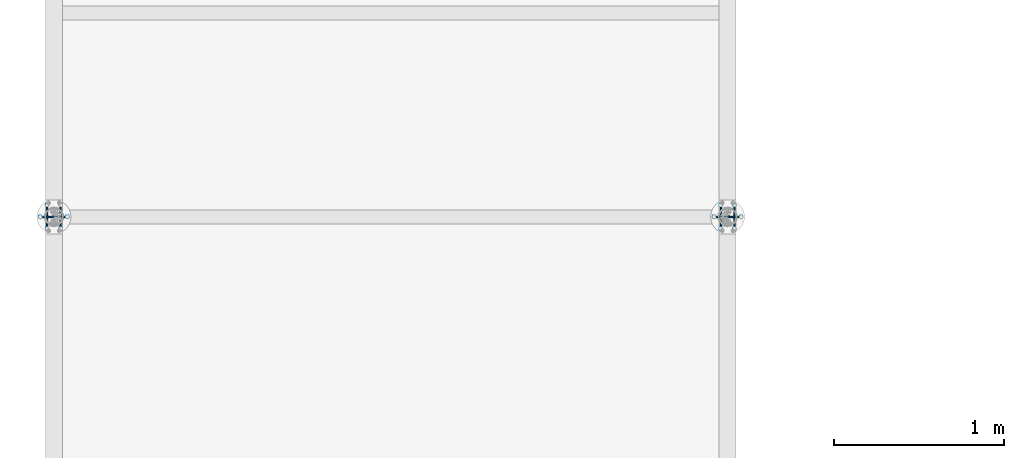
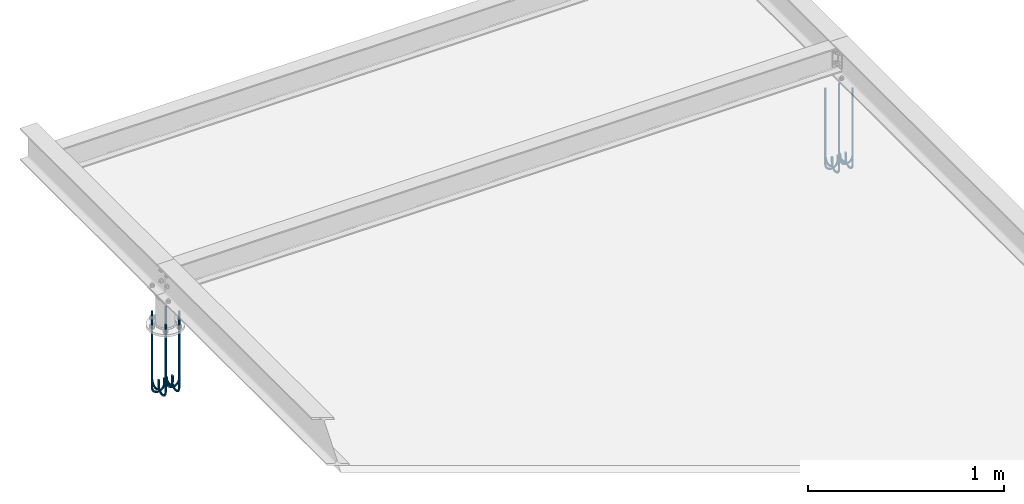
# One storey, part 15 of 84: 6 reinforcing bars.
"""IFC4 building model written with IfcOpenShell, lengths in metres."""

from ifc_helpers import new_model, entity, si_unit, frame, origin_with_axes, place, context, project, spatial, source, transform, mapped, element, save


model = new_model("IFC4")

# Units and contexts
model_context = context("Model", 3, precision=1e-05, world=origin_with_axes())
ifc_project = project(units=[si_unit("LENGTHUNIT", "METRE"), si_unit("AREAUNIT", "SQUARE_METRE"), si_unit("VOLUMEUNIT", "CUBIC_METRE"), si_unit("MASSUNIT", "GRAM", prefix="KILO"), si_unit("TIMEUNIT", "SECOND"), si_unit("PLANEANGLEUNIT", "RADIAN"), si_unit("SOLIDANGLEUNIT", "STERADIAN"), si_unit("THERMODYNAMICTEMPERATUREUNIT", "DEGREE_CELSIUS")], contexts=[model_context])

# Site, building, storey
placement_1 = place(None, origin_with_axes())
site = spatial("IfcSite", under=ifc_project, at=placement_1, Name="Italia", CompositionType="ELEMENT")
building = spatial("IfcBuilding", under=site, at=placement_1, Name="Tettoia", CompositionType="ELEMENT")
storey_placement = place(None, frame((0.0, 0.0, 4.199999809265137), z_axis=(0.0, 0.0, 1.0), x_axis=(1.0, 0.0, 0.0)))
storey = spatial("IfcBuildingStorey", under=building, at=storey_placement, Name="Storey 1", CompositionType="ELEMENT", Elevation=4.199999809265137)

# Reinforcing bars
shared_shape_1 = source(origin_with_axes(), model_context, "Body", "AdvancedSweptSolid", [
    entity("IfcSweptDiskSolid", entity("IfcIndexedPolyCurve", entity("IfcCartesianPointList3D", [[0.02, 19.82, 4.065], [0.02, 19.82, 3.642]]), [entity("IfcLineIndex", [1, 2])], False), 0.006),
])
placement_2 = place(placement_1, origin_with_axes())
reinforcing_bar_1_placement = place(placement_2, origin_with_axes())
element("IfcReinforcingBar", 1, at=reinforcing_bar_1_placement, inside=storey, BarLength=0.423, CrossSectionArea=0.0001131, NominalDiameter=0.012, context=model_context, shape_type="MappedRepresentation", body=[
    mapped(shared_shape_1, transform((0.12, -0.0692825, 0.0), x_axis=(1.0, 0.0, 0.0), y_axis=(0.0, 1.0, 0.0), z_axis=(0.0, 0.0, 1.0), scale=1.0)),
    mapped(shared_shape_1, transform((0.04, -0.0692825, 0.0), x_axis=(1.0, 0.0, 0.0), y_axis=(0.0, 1.0, 0.0), z_axis=(0.0, 0.0, 1.0), scale=1.0)),
    mapped(shared_shape_1, transform((0.0, 0.0, 0.0), x_axis=(1.0, 0.0, 0.0), y_axis=(0.0, 1.0, 0.0), z_axis=(0.0, 0.0, 1.0), scale=1.0)),
    mapped(shared_shape_1, transform((0.04, 0.0692825, 0.0), x_axis=(1.0, 0.0, 0.0), y_axis=(0.0, 1.0, 0.0), z_axis=(0.0, 0.0, 1.0), scale=1.0)),
    mapped(shared_shape_1, transform((0.12, 0.0692825, 0.0), x_axis=(1.0, 0.0, 0.0), y_axis=(0.0, 1.0, 0.0), z_axis=(0.0, 0.0, 1.0), scale=1.0)),
    mapped(shared_shape_1, transform((0.16, 0.0, 0.0), x_axis=(1.0, 0.0, 0.0), y_axis=(0.0, 1.0, 0.0), z_axis=(0.0, 0.0, 1.0), scale=1.0)),
])
shared_shape_2 = source(origin_with_axes(), model_context, "Body", "AdvancedSweptSolid", [
    entity("IfcSweptDiskSolid", entity("IfcIndexedPolyCurve", entity("IfcCartesianPointList3D", [[0.02, 19.82, 3.642], [0.0227403, 19.82, 3.62822]]), [entity("IfcLineIndex", [1, 2])], False), 0.006),
])
reinforcing_bar_2_placement = place(placement_2, origin_with_axes())
element("IfcReinforcingBar", 2, at=reinforcing_bar_2_placement, inside=storey, BarLength=0.0140464, CrossSectionArea=0.0001131, NominalDiameter=0.012, context=model_context, shape_type="MappedRepresentation", body=[
    mapped(shared_shape_2, transform((-19.68, 17.3175, 1.02724), x_axis=(0.0, -0.707073, 0.70714), y_axis=(1.0, 0.0, 0.0), z_axis=(0.0, 0.70714, 0.707073), scale=1.0)),
    mapped(shared_shape_2, transform((-19.68, 19.9091, 0.0), x_axis=(0.0, -1.0, 3.66718e-05), y_axis=(1.0, 0.0, 0.0), z_axis=(0.0, 3.66718e-05, 1.0), scale=1.0)),
    mapped(shared_shape_2, transform((-19.76, 16.5099, 2.19652), x_axis=(0.0, -0.382685, 0.923879), y_axis=(1.0, 0.0, 0.0), z_axis=(0.0, 0.923879, 0.382685), scale=1.0)),
    mapped(shared_shape_2, transform((-19.68, 18.5114, 0.255733), x_axis=(0.0, -0.923898, 0.382638), y_axis=(1.0, 0.0, 0.0), z_axis=(0.0, 0.382638, 0.923898), scale=1.0)),
    mapped(shared_shape_2, transform((-19.68, 16.5099, 2.19652), x_axis=(0.0, -0.382685, 0.923879), y_axis=(1.0, 0.0, 0.0), z_axis=(0.0, 0.923879, 0.382685), scale=1.0)),
    mapped(shared_shape_2, transform((-19.76, 18.5114, 0.255733), x_axis=(0.0, -0.923898, 0.382638), y_axis=(1.0, 0.0, 0.0), z_axis=(0.0, 0.382638, 0.923898), scale=1.0)),
    mapped(shared_shape_2, transform((-19.76, 19.9091, 0.0), x_axis=(0.0, -1.0, 3.66718e-05), y_axis=(1.0, 0.0, 0.0), z_axis=(0.0, 3.66718e-05, 1.0), scale=1.0)),
    mapped(shared_shape_2, transform((-2.39167, 39.64, 1.02711), x_axis=(-0.70711, 0.0, 0.707104), y_axis=(0.0, -1.0, 0.0), z_axis=(0.707104, 0.0, 0.70711), scale=1.0)),
    mapped(shared_shape_2, transform((-1.19802, 39.64, 0.25581), x_axis=(-0.923877, 0.0, 0.38269), y_axis=(0.0, -1.0, 0.0), z_axis=(0.38269, 0.0, 0.923877), scale=1.0)),
    mapped(shared_shape_2, transform((0.200003, 39.64, 0.0), x_axis=(-1.0, 0.0, 0.0), y_axis=(0.0, -1.0, 0.0), z_axis=(0.0, 0.0, 1.0), scale=1.0)),
    mapped(shared_shape_2, transform((-19.76, 17.3175, 1.02724), x_axis=(0.0, -0.707073, 0.70714), y_axis=(1.0, 0.0, 0.0), z_axis=(0.0, 0.70714, 0.707073), scale=1.0)),
    mapped(shared_shape_2, transform((-3.19933, 39.64, 2.19651), x_axis=(-0.382689, 0.0, 0.923877), y_axis=(0.0, -1.0, 0.0), z_axis=(0.923877, 0.0, 0.382689), scale=1.0)),
    mapped(shared_shape_2, transform((-19.68, 16.2113, 3.586), x_axis=(0.0, 0.0, 1.0), y_axis=(1.0, 0.0, 0.0), z_axis=(0.0, 1.0, 0.0), scale=1.0)),
    mapped(shared_shape_2, transform((-19.76, 16.2113, 3.586), x_axis=(0.0, 0.0, 1.0), y_axis=(1.0, 0.0, 0.0), z_axis=(0.0, 1.0, 0.0), scale=1.0)),
    mapped(shared_shape_2, transform((-3.2422, 39.64, 4.984), x_axis=(0.382685, 0.0, 0.923879), y_axis=(0.0, -1.0, 0.0), z_axis=(0.923879, 0.0, -0.382685), scale=1.0)),
    mapped(shared_shape_2, transform((-3.498, 39.64, 3.58602), x_axis=(0.0, 0.0, 1.0), y_axis=(0.0, -1.0, 0.0), z_axis=(1.0, 0.0, 0.0), scale=1.0)),
    mapped(shared_shape_2, transform((-19.68, 16.4671, 4.98409), x_axis=(0.0, 0.382708, 0.923869), y_axis=(1.0, 0.0, 0.0), z_axis=(0.0, 0.923869, -0.382708), scale=1.0)),
    mapped(shared_shape_2, transform((-19.76, 17.2385, 6.17781), x_axis=(0.0, 0.70714, 0.707073), y_axis=(1.0, 0.0, 0.0), z_axis=(0.0, 0.707073, -0.70714), scale=1.0)),
    mapped(shared_shape_2, transform((-19.76, 16.4671, 4.98409), x_axis=(0.0, 0.382708, 0.923869), y_axis=(1.0, 0.0, 0.0), z_axis=(0.0, 0.923869, -0.382708), scale=1.0)),
    mapped(shared_shape_2, transform((-2.4709, 39.64, 6.17767), x_axis=(0.707103, 0.0, 0.707111), y_axis=(0.0, -1.0, 0.0), z_axis=(0.707111, 0.0, -0.707103), scale=1.0)),
    mapped(shared_shape_2, transform((-19.68, 18.4077, 6.98529), x_axis=(0.0, 0.923866, 0.382716), y_axis=(1.0, 0.0, 0.0), z_axis=(0.0, 0.382716, -0.923866), scale=1.0)),
    mapped(shared_shape_2, transform((-19.68, 17.2385, 6.17781), x_axis=(0.0, 0.70714, 0.707073), y_axis=(1.0, 0.0, 0.0), z_axis=(0.0, 0.707073, -0.70714), scale=1.0)),
    mapped(shared_shape_2, transform((-19.76, 18.4077, 6.98529), x_axis=(0.0, 0.923866, 0.382716), y_axis=(1.0, 0.0, 0.0), z_axis=(0.0, 0.382716, -0.923866), scale=1.0)),
    mapped(shared_shape_2, transform((-1.30148, 39.64, 6.98534), x_axis=(0.923879, 0.0, 0.382685), y_axis=(0.0, -1.0, 0.0), z_axis=(0.382685, 0.0, -0.923879), scale=1.0)),
    mapped(shared_shape_2, transform((1.50148, 0.0, 6.98534), x_axis=(-0.923879, 0.0, 0.382685), y_axis=(0.0, 1.0, 0.0), z_axis=(-0.382685, 0.0, -0.923879), scale=1.0)),
    mapped(shared_shape_2, transform((2.6709, 0.0, 6.17767), x_axis=(-0.707103, 0.0, 0.707111), y_axis=(0.0, 1.0, 0.0), z_axis=(-0.707111, 0.0, -0.707103), scale=1.0)),
    mapped(shared_shape_2, transform((19.88, 19.7309, 0.0), x_axis=(0.0, 1.0, 3.66718e-05), y_axis=(-1.0, 0.0, 0.0), z_axis=(0.0, -3.66718e-05, 1.0), scale=1.0)),
    mapped(shared_shape_2, transform((3.698, 0.0, 3.58602), x_axis=(0.0, 0.0, 1.0), y_axis=(0.0, 1.0, 0.0), z_axis=(-1.0, 0.0, 0.0), scale=1.0)),
    mapped(shared_shape_2, transform((3.4422, 0.0, 4.984), x_axis=(-0.382685, 0.0, 0.923879), y_axis=(0.0, 1.0, 0.0), z_axis=(-0.923879, 0.0, -0.382685), scale=1.0)),
    mapped(shared_shape_2, transform((1.39802, 0.0, 0.255809), x_axis=(0.923877, 0.0, 0.382689), y_axis=(0.0, 1.0, 0.0), z_axis=(-0.382689, 0.0, 0.923877), scale=1.0)),
    mapped(shared_shape_2, transform((0.0, 0.0, 0.0), x_axis=(1.0, 0.0, 0.0), y_axis=(0.0, 1.0, 0.0), z_axis=(0.0, 0.0, 1.0), scale=1.0)),
    mapped(shared_shape_2, transform((19.96, 21.1285, 0.255733), x_axis=(0.0, 0.923898, 0.382638), y_axis=(-1.0, 0.0, 0.0), z_axis=(0.0, -0.382638, 0.923898), scale=1.0)),
    mapped(shared_shape_2, transform((19.88, 21.1285, 0.255733), x_axis=(0.0, 0.923898, 0.382638), y_axis=(-1.0, 0.0, 0.0), z_axis=(0.0, -0.382638, 0.923898), scale=1.0)),
    mapped(shared_shape_2, transform((2.59167, 0.0, 1.02711), x_axis=(0.70711, 0.0, 0.707104), y_axis=(0.0, 1.0, 0.0), z_axis=(-0.707104, 0.0, 0.70711), scale=1.0)),
    mapped(shared_shape_2, transform((19.96, 22.3225, 1.02724), x_axis=(0.0, 0.707073, 0.70714), y_axis=(-1.0, 0.0, 0.0), z_axis=(0.0, -0.70714, 0.707073), scale=1.0)),
    mapped(shared_shape_2, transform((19.88, 22.3225, 1.02724), x_axis=(0.0, 0.707073, 0.70714), y_axis=(-1.0, 0.0, 0.0), z_axis=(0.0, -0.70714, 0.707073), scale=1.0)),
    mapped(shared_shape_2, transform((19.96, 19.7309, 0.0), x_axis=(0.0, 1.0, 3.66718e-05), y_axis=(-1.0, 0.0, 0.0), z_axis=(0.0, -3.66718e-05, 1.0), scale=1.0)),
    mapped(shared_shape_2, transform((3.39933, 0.0, 2.19651), x_axis=(0.382689, 0.0, 0.923877), y_axis=(0.0, 1.0, 0.0), z_axis=(-0.923877, 0.0, 0.382689), scale=1.0)),
    mapped(shared_shape_2, transform((19.96, 21.2323, 6.98529), x_axis=(0.0, -0.923866, 0.382716), y_axis=(-1.0, 0.0, 0.0), z_axis=(0.0, -0.382716, -0.923866), scale=1.0)),
    mapped(shared_shape_2, transform((19.88, 23.1729, 4.98409), x_axis=(0.0, -0.382708, 0.923869), y_axis=(-1.0, 0.0, 0.0), z_axis=(0.0, -0.923869, -0.382708), scale=1.0)),
    mapped(shared_shape_2, transform((19.88, 23.4287, 3.586), x_axis=(0.0, 0.0, 1.0), y_axis=(-1.0, 0.0, 0.0), z_axis=(0.0, -1.0, 0.0), scale=1.0)),
    mapped(shared_shape_2, transform((19.88, 23.1301, 2.19652), x_axis=(0.0, 0.382685, 0.923879), y_axis=(-1.0, 0.0, 0.0), z_axis=(0.0, -0.923879, 0.382685), scale=1.0)),
    mapped(shared_shape_2, transform((19.96, 23.4287, 3.586), x_axis=(0.0, 0.0, 1.0), y_axis=(-1.0, 0.0, 0.0), z_axis=(0.0, -1.0, 0.0), scale=1.0)),
    mapped(shared_shape_2, transform((19.96, 22.4015, 6.17781), x_axis=(0.0, -0.70714, 0.707073), y_axis=(-1.0, 0.0, 0.0), z_axis=(0.0, -0.707073, -0.70714), scale=1.0)),
    mapped(shared_shape_2, transform((19.96, 23.1729, 4.98409), x_axis=(0.0, -0.382708, 0.923869), y_axis=(-1.0, 0.0, 0.0), z_axis=(0.0, -0.923869, -0.382708), scale=1.0)),
    mapped(shared_shape_2, transform((19.88, 22.4015, 6.17781), x_axis=(0.0, -0.70714, 0.707073), y_axis=(-1.0, 0.0, 0.0), z_axis=(0.0, -0.707073, -0.70714), scale=1.0)),
    mapped(shared_shape_2, transform((19.96, 23.1301, 2.19652), x_axis=(0.0, 0.382685, 0.923879), y_axis=(-1.0, 0.0, 0.0), z_axis=(0.0, -0.923879, 0.382685), scale=1.0)),
    mapped(shared_shape_2, transform((19.88, 21.2323, 6.98529), x_axis=(0.0, -0.923866, 0.382716), y_axis=(-1.0, 0.0, 0.0), z_axis=(0.0, -0.382716, -0.923866), scale=1.0)),
])
shared_shape_3 = source(origin_with_axes(), model_context, "Body", "AdvancedSweptSolid", [
    entity("IfcSweptDiskSolid", entity("IfcIndexedPolyCurve", entity("IfcCartesianPointList3D", [[0.092, 19.82, 3.642], [0.092, 19.82, 3.678]]), [entity("IfcLineIndex", [1, 2])], False), 0.006),
])
reinforcing_bar_3_placement = place(placement_2, origin_with_axes())
element("IfcReinforcingBar", 3, at=reinforcing_bar_3_placement, inside=storey, BarLength=0.0359998, CrossSectionArea=0.0001131, NominalDiameter=0.012, context=model_context, shape_type="MappedRepresentation", body=[
    mapped(shared_shape_3, transform((0.048, 0.00271797, 0.0), x_axis=(1.0, 0.0, 0.0), y_axis=(0.0, 1.0, 0.0), z_axis=(0.0, 0.0, 1.0), scale=1.0)),
    mapped(shared_shape_3, transform((-0.032, 0.00271797, 0.0), x_axis=(1.0, 0.0, 0.0), y_axis=(0.0, 1.0, 0.0), z_axis=(0.0, 0.0, 1.0), scale=1.0)),
    mapped(shared_shape_3, transform((0.0, 0.0, 0.0), x_axis=(1.0, 0.0, 0.0), y_axis=(0.0, 1.0, 0.0), z_axis=(0.0, 0.0, 1.0), scale=1.0)),
    mapped(shared_shape_3, transform((-0.032, -0.00271797, 0.0), x_axis=(1.0, 0.0, 0.0), y_axis=(0.0, 1.0, 0.0), z_axis=(0.0, 0.0, 1.0), scale=1.0)),
    mapped(shared_shape_3, transform((0.048, -0.00271797, 0.0), x_axis=(1.0, 0.0, 0.0), y_axis=(0.0, 1.0, 0.0), z_axis=(0.0, 0.0, 1.0), scale=1.0)),
    mapped(shared_shape_3, transform((0.016, 0.0, 0.0), x_axis=(1.0, 0.0, 0.0), y_axis=(0.0, 1.0, 0.0), z_axis=(0.0, 0.0, 1.0), scale=1.0)),
])
shared_shape_4 = source(origin_with_axes(), model_context, "Body", "AdvancedSweptSolid", [
    entity("IfcSweptDiskSolid", entity("IfcIndexedPolyCurve", entity("IfcCartesianPointList3D", [[3.99, 19.82, 4.065], [3.99, 19.82, 3.642]]), [entity("IfcLineIndex", [1, 2])], False), 0.006),
])
reinforcing_bar_4_placement = place(placement_2, origin_with_axes())
element("IfcReinforcingBar", 4, at=reinforcing_bar_4_placement, inside=storey, BarLength=0.423, CrossSectionArea=0.0001131, NominalDiameter=0.012, context=model_context, shape_type="MappedRepresentation", body=[
    mapped(shared_shape_4, transform((0.12, -0.0692806, 0.0), x_axis=(1.0, 0.0, 0.0), y_axis=(0.0, 1.0, 0.0), z_axis=(0.0, 0.0, 1.0), scale=1.0)),
    mapped(shared_shape_4, transform((0.0400002, -0.0692806, 0.0), x_axis=(1.0, 0.0, 0.0), y_axis=(0.0, 1.0, 0.0), z_axis=(0.0, 0.0, 1.0), scale=1.0)),
    mapped(shared_shape_4, transform((0.0, 0.0, 0.0), x_axis=(1.0, 0.0, 0.0), y_axis=(0.0, 1.0, 0.0), z_axis=(0.0, 0.0, 1.0), scale=1.0)),
    mapped(shared_shape_4, transform((0.0400002, 0.0692844, 0.0), x_axis=(1.0, 0.0, 0.0), y_axis=(0.0, 1.0, 0.0), z_axis=(0.0, 0.0, 1.0), scale=1.0)),
    mapped(shared_shape_4, transform((0.12, 0.0692844, 0.0), x_axis=(1.0, 0.0, 0.0), y_axis=(0.0, 1.0, 0.0), z_axis=(0.0, 0.0, 1.0), scale=1.0)),
    mapped(shared_shape_4, transform((0.16, 0.0, 0.0), x_axis=(1.0, 0.0, 0.0), y_axis=(0.0, 1.0, 0.0), z_axis=(0.0, 0.0, 1.0), scale=1.0)),
])
shared_shape_5 = source(origin_with_axes(), model_context, "Body", "AdvancedSweptSolid", [
    entity("IfcSweptDiskSolid", entity("IfcIndexedPolyCurve", entity("IfcCartesianPointList3D", [[3.99, 19.82, 3.642], [3.99274, 19.82, 3.62822]]), [entity("IfcLineIndex", [1, 2])], False), 0.006),
])
reinforcing_bar_5_placement = place(placement_2, origin_with_axes())
element("IfcReinforcingBar", 5, at=reinforcing_bar_5_placement, inside=storey, BarLength=0.0140465, CrossSectionArea=0.0001131, NominalDiameter=0.012, context=model_context, shape_type="MappedRepresentation", body=[
    mapped(shared_shape_5, transform((-15.71, 18.0292, -1.47128), x_axis=(0.0, -0.382688, 0.923878), y_axis=(1.0, 0.0, 0.0), z_axis=(0.0, 0.923878, 0.382688), scale=1.0)),
    mapped(shared_shape_5, transform((-15.79, 18.0292, -1.47128), x_axis=(0.0, -0.382688, 0.923878), y_axis=(1.0, 0.0, 0.0), z_axis=(0.0, 0.923878, 0.382688), scale=1.0)),
    mapped(shared_shape_5, transform((-15.79, 16.2113, -0.384012), x_axis=(0.0, 0.0, 1.0), y_axis=(1.0, 0.0, 0.0), z_axis=(0.0, 1.0, 0.0), scale=1.0)),
    mapped(shared_shape_5, transform((-15.71, 20.1246, -1.78011), x_axis=(0.0, -0.707076, 0.707138), y_axis=(1.0, 0.0, 0.0), z_axis=(0.0, 0.707138, 0.707076), scale=1.0)),
    mapped(shared_shape_5, transform((-15.79, 20.1246, -1.78011), x_axis=(0.0, -0.707076, 0.707138), y_axis=(1.0, 0.0, 0.0), z_axis=(0.0, 0.707138, 0.707076), scale=1.0)),
    mapped(shared_shape_5, transform((4.3857, 39.64, -1.78009), x_axis=(-0.707129, 0.0, 0.707085), y_axis=(0.0, -1.0, 0.0), z_axis=(0.707085, 0.0, 0.707129), scale=1.0)),
    mapped(shared_shape_5, transform((2.28994, 39.64, -1.47128), x_axis=(-0.382688, 0.0, 0.923878), y_axis=(0.0, -1.0, 0.0), z_axis=(0.923878, 0.0, 0.382688), scale=1.0)),
    mapped(shared_shape_5, transform((-15.71, 22.1793, -1.26333), x_axis=(0.0, -0.923899, 0.382635), y_axis=(1.0, 0.0, 0.0), z_axis=(0.0, 0.382635, 0.923899), scale=1.0)),
    mapped(shared_shape_5, transform((-15.79, 22.1793, -1.26333), x_axis=(0.0, -0.923899, 0.382635), y_axis=(1.0, 0.0, 0.0), z_axis=(0.0, 0.382635, 0.923899), scale=1.0)),
    mapped(shared_shape_5, transform((0.472014, 39.64, -0.384012), x_axis=(0.0, 0.0, 1.0), y_axis=(0.0, -1.0, 0.0), z_axis=(1.0, 0.0, 0.0), scale=1.0)),
    mapped(shared_shape_5, transform((-15.71, 23.8792, -0.000132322), x_axis=(0.0, -1.0, 3.32743e-05), y_axis=(1.0, 0.0, 0.0), z_axis=(0.0, 3.32743e-05, 1.0), scale=1.0)),
    mapped(shared_shape_5, transform((-15.71, 14.9478, 1.31631), x_axis=(0.0, 0.382705, 0.923871), y_axis=(1.0, 0.0, 0.0), z_axis=(0.0, 0.923871, -0.382705), scale=1.0)),
    mapped(shared_shape_5, transform((-15.71, 16.2113, -0.384012), x_axis=(0.0, 0.0, 1.0), y_axis=(1.0, 0.0, 0.0), z_axis=(0.0, 1.0, 0.0), scale=1.0)),
    mapped(shared_shape_5, transform((-15.71, 14.4312, 3.37071), x_axis=(0.0, 0.707138, 0.707076), y_axis=(1.0, 0.0, 0.0), z_axis=(0.0, 0.707076, -0.707138), scale=1.0)),
    mapped(shared_shape_5, transform((-15.79, 23.8792, -0.000132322), x_axis=(0.0, -1.0, 3.32743e-05), y_axis=(1.0, 0.0, 0.0), z_axis=(0.0, 3.32743e-05, 1.0), scale=1.0)),
    mapped(shared_shape_5, transform((-0.791462, 39.64, 1.31622), x_axis=(0.382687, 0.0, 0.923878), y_axis=(0.0, -1.0, 0.0), z_axis=(0.923878, 0.0, -0.382687), scale=1.0)),
    mapped(shared_shape_5, transform((-15.79, 14.7399, 5.46589), x_axis=(0.0, 0.923865, 0.382719), y_axis=(1.0, 0.0, 0.0), z_axis=(0.0, 0.382719, -0.923865), scale=1.0)),
    mapped(shared_shape_5, transform((-15.79, 14.4312, 3.37071), x_axis=(0.0, 0.707138, 0.707076), y_axis=(1.0, 0.0, 0.0), z_axis=(0.0, 0.707076, -0.707138), scale=1.0)),
    mapped(shared_shape_5, transform((-15.71, 14.7399, 5.46589), x_axis=(0.0, 0.923865, 0.382719), y_axis=(1.0, 0.0, 0.0), z_axis=(0.0, 0.382719, -0.923865), scale=1.0)),
    mapped(shared_shape_5, transform((-15.79, 14.9478, 1.31631), x_axis=(0.0, 0.382705, 0.923871), y_axis=(1.0, 0.0, 0.0), z_axis=(0.0, 0.923871, -0.382705), scale=1.0)),
    mapped(shared_shape_5, transform((-1.30809, 39.64, 3.3704), x_axis=(0.707098, 0.0, 0.707116), y_axis=(0.0, -1.0, 0.0), z_axis=(0.707116, 0.0, -0.707098), scale=1.0)),
    mapped(shared_shape_5, transform((-0.99928, 39.64, 5.46606), x_axis=(0.923878, 0.0, 0.382688), y_axis=(0.0, -1.0, 0.0), z_axis=(0.382688, 0.0, -0.923878), scale=1.0)),
    mapped(shared_shape_5, transform((9.13928, 0.0, 5.46606), x_axis=(-0.923878, 0.0, 0.382688), y_axis=(0.0, 1.0, 0.0), z_axis=(-0.382688, 0.0, -0.923878), scale=1.0)),
    mapped(shared_shape_5, transform((9.44809, 0.0, 3.3704), x_axis=(-0.707098, 0.0, 0.707116), y_axis=(0.0, 1.0, 0.0), z_axis=(-0.707116, 0.0, -0.707098), scale=1.0)),
    mapped(shared_shape_5, transform((23.85, 19.5154, -1.78011), x_axis=(0.0, 0.707076, 0.707138), y_axis=(-1.0, 0.0, 0.0), z_axis=(0.0, -0.707138, 0.707076), scale=1.0)),
    mapped(shared_shape_5, transform((5.85006, 0.0, -1.47128), x_axis=(0.382688, 0.0, 0.923878), y_axis=(0.0, 1.0, 0.0), z_axis=(-0.923878, 0.0, 0.382688), scale=1.0)),
    mapped(shared_shape_5, transform((3.7543, 0.0, -1.78009), x_axis=(0.707129, 0.0, 0.707085), y_axis=(0.0, 1.0, 0.0), z_axis=(-0.707085, 0.0, 0.707129), scale=1.0)),
    mapped(shared_shape_5, transform((6.43979, 39.64, -1.26346), x_axis=(-0.923878, 0.0, 0.382687), y_axis=(0.0, -1.0, 0.0), z_axis=(0.382687, 0.0, 0.923878), scale=1.0)),
    mapped(shared_shape_5, transform((23.93, 21.6108, -1.47128), x_axis=(0.0, 0.382688, 0.923878), y_axis=(-1.0, 0.0, 0.0), z_axis=(0.0, -0.923878, 0.382688), scale=1.0)),
    mapped(shared_shape_5, transform((23.85, 21.6108, -1.47128), x_axis=(0.0, 0.382688, 0.923878), y_axis=(-1.0, 0.0, 0.0), z_axis=(0.0, -0.923878, 0.382688), scale=1.0)),
    mapped(shared_shape_5, transform((7.66799, 0.0, -0.384012), x_axis=(0.0, 0.0, 1.0), y_axis=(0.0, 1.0, 0.0), z_axis=(-1.0, 0.0, 0.0), scale=1.0)),
    mapped(shared_shape_5, transform((0.0, 0.0, 0.0), x_axis=(1.0, 0.0, 0.0), y_axis=(0.0, 1.0, 0.0), z_axis=(0.0, 0.0, 1.0), scale=1.0)),
    mapped(shared_shape_5, transform((8.93146, 0.0, 1.31622), x_axis=(-0.382687, 0.0, 0.923878), y_axis=(0.0, 1.0, 0.0), z_axis=(-0.923878, 0.0, -0.382687), scale=1.0)),
    mapped(shared_shape_5, transform((1.70022, 0.0, -1.26346), x_axis=(0.923878, 0.0, 0.382687), y_axis=(0.0, 1.0, 0.0), z_axis=(-0.382687, 0.0, 0.923878), scale=1.0)),
    mapped(shared_shape_5, transform((23.85, 25.2088, 3.37071), x_axis=(0.0, -0.707138, 0.707076), y_axis=(-1.0, 0.0, 0.0), z_axis=(0.0, -0.707076, -0.707138), scale=1.0)),
    mapped(shared_shape_5, transform((8.14, 39.64, 0.0), x_axis=(-1.0, 0.0, 0.0), y_axis=(0.0, -1.0, 0.0), z_axis=(0.0, 0.0, 1.0), scale=1.0)),
    mapped(shared_shape_5, transform((23.85, 24.9001, 5.46589), x_axis=(0.0, -0.923865, 0.382719), y_axis=(-1.0, 0.0, 0.0), z_axis=(0.0, -0.382719, -0.923865), scale=1.0)),
    mapped(shared_shape_5, transform((23.85, 24.6922, 1.31631), x_axis=(0.0, -0.382705, 0.923871), y_axis=(-1.0, 0.0, 0.0), z_axis=(0.0, -0.923871, -0.382705), scale=1.0)),
    mapped(shared_shape_5, transform((23.85, 23.4287, -0.384012), x_axis=(0.0, 0.0, 1.0), y_axis=(-1.0, 0.0, 0.0), z_axis=(0.0, -1.0, 0.0), scale=1.0)),
    mapped(shared_shape_5, transform((23.85, 15.7608, -0.000132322), x_axis=(0.0, 1.0, 3.32743e-05), y_axis=(-1.0, 0.0, 0.0), z_axis=(0.0, -3.32743e-05, 1.0), scale=1.0)),
    mapped(shared_shape_5, transform((23.85, 17.4607, -1.26333), x_axis=(0.0, 0.923899, 0.382635), y_axis=(-1.0, 0.0, 0.0), z_axis=(0.0, -0.382635, 0.923899), scale=1.0)),
    mapped(shared_shape_5, transform((23.93, 24.9001, 5.46589), x_axis=(0.0, -0.923865, 0.382719), y_axis=(-1.0, 0.0, 0.0), z_axis=(0.0, -0.382719, -0.923865), scale=1.0)),
    mapped(shared_shape_5, transform((23.93, 25.2088, 3.37071), x_axis=(0.0, -0.707138, 0.707076), y_axis=(-1.0, 0.0, 0.0), z_axis=(0.0, -0.707076, -0.707138), scale=1.0)),
    mapped(shared_shape_5, transform((23.93, 23.4287, -0.384012), x_axis=(0.0, 0.0, 1.0), y_axis=(-1.0, 0.0, 0.0), z_axis=(0.0, -1.0, 0.0), scale=1.0)),
    mapped(shared_shape_5, transform((23.93, 24.6922, 1.31631), x_axis=(0.0, -0.382705, 0.923871), y_axis=(-1.0, 0.0, 0.0), z_axis=(0.0, -0.923871, -0.382705), scale=1.0)),
    mapped(shared_shape_5, transform((23.93, 17.4607, -1.26333), x_axis=(0.0, 0.923899, 0.382635), y_axis=(-1.0, 0.0, 0.0), z_axis=(0.0, -0.382635, 0.923899), scale=1.0)),
    mapped(shared_shape_5, transform((23.93, 15.7608, -0.000132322), x_axis=(0.0, 1.0, 3.32743e-05), y_axis=(-1.0, 0.0, 0.0), z_axis=(0.0, -3.32743e-05, 1.0), scale=1.0)),
    mapped(shared_shape_5, transform((23.93, 19.5154, -1.78011), x_axis=(0.0, 0.707076, 0.707138), y_axis=(-1.0, 0.0, 0.0), z_axis=(0.0, -0.707138, 0.707076), scale=1.0)),
])
shared_shape_6 = source(origin_with_axes(), model_context, "Body", "AdvancedSweptSolid", [
    entity("IfcSweptDiskSolid", entity("IfcIndexedPolyCurve", entity("IfcCartesianPointList3D", [[4.062, 19.82, 3.642], [4.062, 19.82, 3.678]]), [entity("IfcLineIndex", [1, 2])], False), 0.006),
])
reinforcing_bar_6_placement = place(placement_2, origin_with_axes())
element("IfcReinforcingBar", 6, at=reinforcing_bar_6_placement, inside=storey, BarLength=0.0359998, CrossSectionArea=0.0001131, NominalDiameter=0.012, context=model_context, shape_type="MappedRepresentation", body=[
    mapped(shared_shape_6, transform((0.0479999, 0.00271797, 0.0), x_axis=(1.0, 0.0, 0.0), y_axis=(0.0, 1.0, 0.0), z_axis=(0.0, 0.0, 1.0), scale=1.0)),
    mapped(shared_shape_6, transform((-0.0320001, 0.00271797, 0.0), x_axis=(1.0, 0.0, 0.0), y_axis=(0.0, 1.0, 0.0), z_axis=(0.0, 0.0, 1.0), scale=1.0)),
    mapped(shared_shape_6, transform((0.0, 0.0, 0.0), x_axis=(1.0, 0.0, 0.0), y_axis=(0.0, 1.0, 0.0), z_axis=(0.0, 0.0, 1.0), scale=1.0)),
    mapped(shared_shape_6, transform((-0.0320001, -0.00271797, 0.0), x_axis=(1.0, 0.0, 0.0), y_axis=(0.0, 1.0, 0.0), z_axis=(0.0, 0.0, 1.0), scale=1.0)),
    mapped(shared_shape_6, transform((0.0479999, -0.00271797, 0.0), x_axis=(1.0, 0.0, 0.0), y_axis=(0.0, 1.0, 0.0), z_axis=(0.0, 0.0, 1.0), scale=1.0)),
    mapped(shared_shape_6, transform((0.0159998, 0.0, 0.0), x_axis=(1.0, 0.0, 0.0), y_axis=(0.0, 1.0, 0.0), z_axis=(0.0, 0.0, 1.0), scale=1.0)),
])

save(model, "model.ifc")
